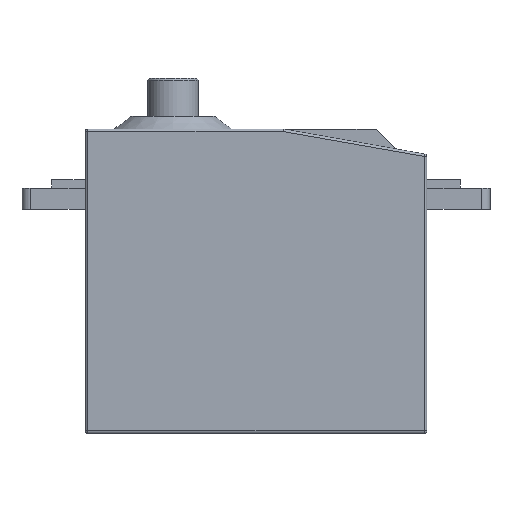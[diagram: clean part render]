
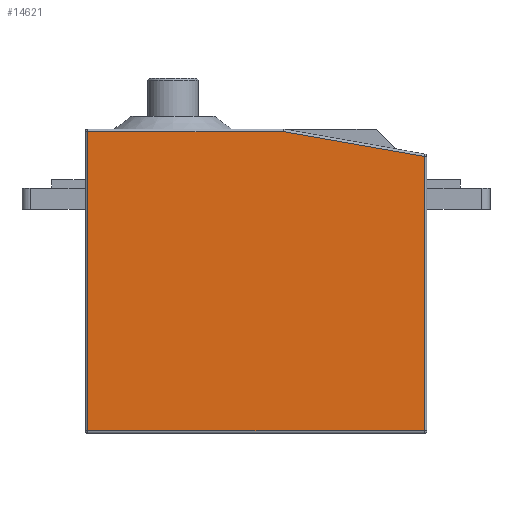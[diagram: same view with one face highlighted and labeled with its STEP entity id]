
A CAD part, left-side view. The second image highlights one B-rep face of the part: STEP entity #14621.
In plain terms, the highlighted planar face has unit normal (-1, 0, 0).
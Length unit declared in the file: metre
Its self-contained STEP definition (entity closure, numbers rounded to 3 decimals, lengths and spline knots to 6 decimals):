
#1468=LINE('',#25155,#3032);
#1473=LINE('',#25176,#3037);
#1483=LINE('',#25199,#3047);
#1484=LINE('',#25201,#3048);
#1485=LINE('',#25203,#3049);
#3032=VECTOR('',#17808,1.);
#3037=VECTOR('',#17835,1.);
#3047=VECTOR('',#17853,1.);
#3048=VECTOR('',#17854,1.);
#3049=VECTOR('',#17855,1.);
#4358=PLANE('',#15230);
#8345=ORIENTED_EDGE('',*,*,#10604,.F.);
#8346=ORIENTED_EDGE('',*,*,#10615,.F.);
#8347=ORIENTED_EDGE('',*,*,#10626,.F.);
#8348=ORIENTED_EDGE('',*,*,#10627,.F.);
#8349=ORIENTED_EDGE('',*,*,#10628,.F.);
#10604=EDGE_CURVE('',#12071,#12072,#1468,.T.);
#10615=EDGE_CURVE('',#12078,#12071,#1473,.T.);
#10626=EDGE_CURVE('',#12088,#12078,#1483,.T.);
#10627=EDGE_CURVE('',#12089,#12088,#1484,.T.);
#10628=EDGE_CURVE('',#12072,#12089,#1485,.T.);
#12071=VERTEX_POINT('',#25148);
#12072=VERTEX_POINT('',#25152);
#12078=VERTEX_POINT('',#25175);
#12088=VERTEX_POINT('',#25200);
#12089=VERTEX_POINT('',#25202);
#13010=EDGE_LOOP('',(#8345,#8346,#8347,#8348,#8349));
#13841=FACE_BOUND('',#13010,.T.);
#14621=ADVANCED_FACE('',(#13841),#4358,.F.);
#15230=AXIS2_PLACEMENT_3D('',#25198,#17851,#17852);
#17808=DIRECTION('',(0.,0.,1.));
#17835=DIRECTION('',(0.,1.,0.));
#17851=DIRECTION('',(1.,0.,0.));
#17852=DIRECTION('',(0.,1.,0.));
#17853=DIRECTION('',(0.,0.,-1.));
#17854=DIRECTION('',(0.,-0.985,-0.174));
#17855=DIRECTION('',(0.,-1.,0.));
#25148=CARTESIAN_POINT('',(-0.01,0.0402,0.0929));
#25152=CARTESIAN_POINT('',(-0.01,0.0402,0.1284));
#25155=CARTESIAN_POINT('',(-0.01,0.0402,0.11065));
#25175=CARTESIAN_POINT('',(-0.01,0.0003,0.0929));
#25176=CARTESIAN_POINT('',(-0.01,0.02025,0.0929));
#25198=CARTESIAN_POINT('',(-0.01,0.,0.0926));
#25199=CARTESIAN_POINT('',(-0.01,0.0003,0.11065));
#25200=CARTESIAN_POINT('',(-0.01,0.0003,0.125448));
#25201=CARTESIAN_POINT('',(-0.01,0.0204,0.128995));
#25202=CARTESIAN_POINT('',(-0.01,0.017026,0.1284));
#25203=CARTESIAN_POINT('',(-0.01,0.0204,0.1284));
